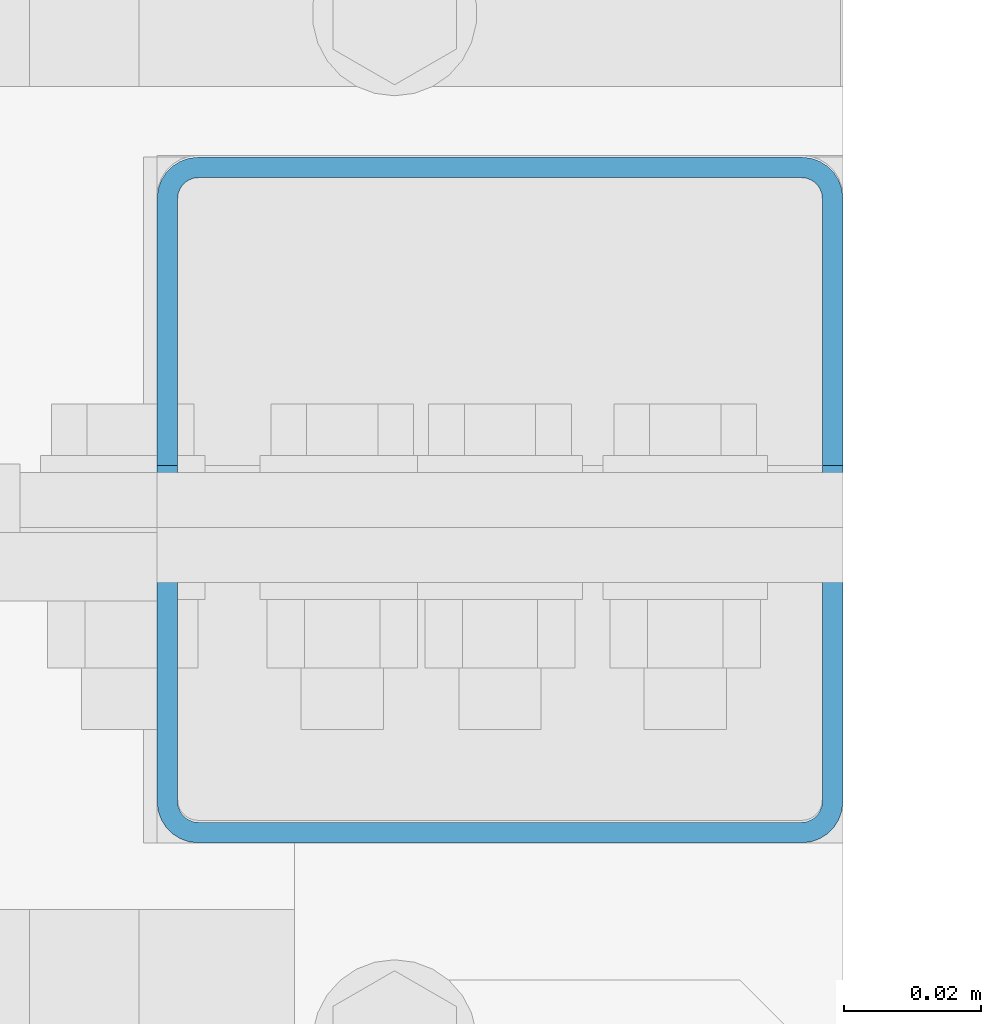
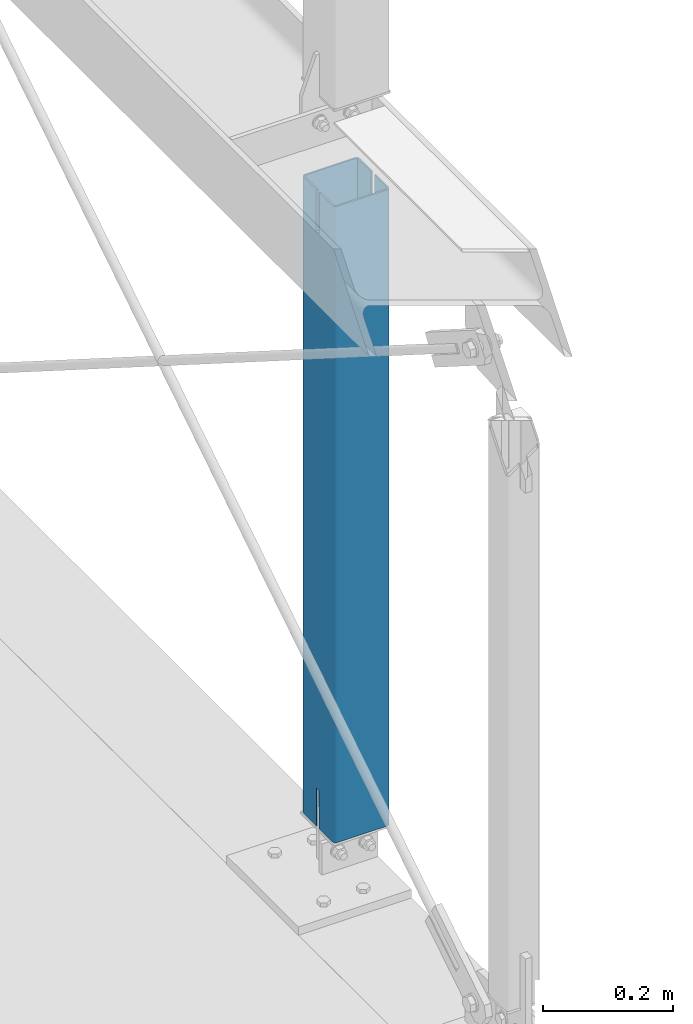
# One storey, part 46 of 271: 1 beam, 1 element without a shape of its own.
"""IFC2X3 building model written with IfcOpenShell, lengths in millimetres."""

from ifc_helpers import new_model, si_unit, frame, origin_with_axes, origin_2d_with_axis, place, context, subcontext, project, spatial, polyline, hollow_rectangle, outline, extrude, boolean, material, type_object, element, aggregate, save


model = new_model("IFC2X3")

# Units and contexts
model_context = context("Model", 3, precision=1e-05, world=origin_with_axes())
body_context = subcontext(model_context, "Body", "Model", "MODEL_VIEW")
ifc_project = project(units=[si_unit("LENGTHUNIT", "METRE", prefix="MILLI"), si_unit("AREAUNIT", "SQUARE_METRE"), si_unit("VOLUMEUNIT", "CUBIC_METRE"), si_unit("MASSUNIT", "GRAM", prefix="KILO"), si_unit("TIMEUNIT", "SECOND"), si_unit("PLANEANGLEUNIT", "RADIAN"), si_unit("SOLIDANGLEUNIT", "STERADIAN"), si_unit("THERMODYNAMICTEMPERATUREUNIT", "DEGREE_CELSIUS"), si_unit("LUMINOUSINTENSITYUNIT", "LUMEN")], contexts=[model_context])

# Site, building, storey
site_placement = place(None, origin_with_axes())
site = spatial("IfcSite", under=ifc_project, at=site_placement, Name="Undefined", CompositionType="ELEMENT")
building_placement = place(site_placement, origin_with_axes())
building = spatial("IfcBuilding", under=site, at=building_placement, Name="Undefined", CompositionType="ELEMENT")
storey_placement = place(building_placement, origin_with_axes())
storey = spatial("IfcBuildingStorey", under=building, at=storey_placement, Name="Undefined", CompositionType="ELEMENT", Elevation=0.0)

# Assembly, beam
assembly_placement = place(storey_placement, origin_with_axes())
assembly = element("IfcElementAssembly", 1, at=assembly_placement, inside=storey, AssemblyPlace="NOTDEFINED", PredefinedType="RIGID_FRAME")
ifc_material = material(Name="STEEL/S355JR")
beam_type = type_object("IfcBeamType", Name="SHS100*3", PredefinedType="NOTDEFINED")
beam_placement = place(assembly_placement, frame((12658.3756870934, 2799.05211980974, 81.8499999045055), z_axis=(0.0, 1.0, 0.0), x_axis=(0.0, 0.0, 1.0)))
beam = element("IfcBeam", 2, at=beam_placement, type_object=beam_type, material=ifc_material, Name="RYGIEL", ObjectType="SHS100*3", context=body_context, shape_type="CSG", body=[
    boolean("DIFFERENCE", boolean("DIFFERENCE", extrude(hollow_rectangle(XDim=100.0, YDim=100.0, WallThickness=3.0, InnerFilletRadius=3.0, OuterFilletRadius=6.0, at=origin_2d_with_axis()), frame((1191.0, 0.0, 0.0), z_axis=(-1.0, 0.0, 1.38777878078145e-17), x_axis=(0.0, -1.0, 0.0)), (0.0, 0.0, 1.0), 1191.0), extrude(outline(polyline([(0.0, 0.0), (130.0, -1.68906158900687e-12), (140.0, 9.99999999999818), (140.0, 90.0), (130.0, 100.0), (1.59161572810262e-12, 100.0), (0.0, 0.0)])), frame((71.0000000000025, 49.9999999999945, -3.99986444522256), z_axis=(0.0, 0.0, 1.0), x_axis=(-1.0, 0.0, 1.38777878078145e-17)), (0.0, 0.0, 1.0), 8.0)), extrude(outline(polyline([(0.0, 40.0), (80.0, 0.0), (151.0, -1.91135995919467e-12), (151.0, 120.0), (91.0, 120.0), (91.0, 150.0), (1.4210854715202e-14, 150.0), (0.0, 40.0)])), frame((1114.0, -99.9999999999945, -4.99999999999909), z_axis=(0.0, 0.0, 1.0), x_axis=(1.0, 0.0, 0.0)), (0.0, 0.0, 1.0), 10.0)),
])
aggregate(assembly, [beam])

save(model, "model.ifc")
